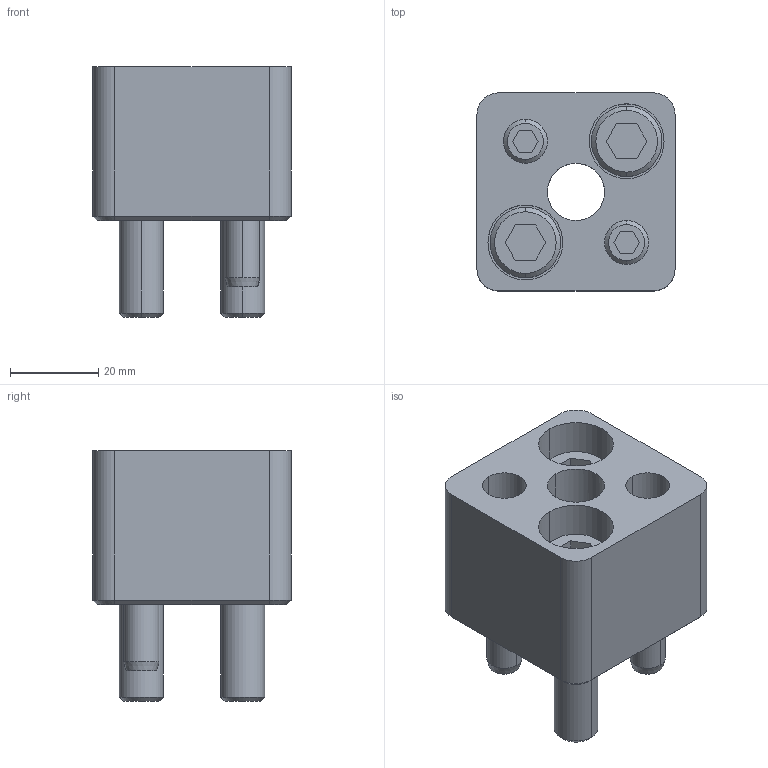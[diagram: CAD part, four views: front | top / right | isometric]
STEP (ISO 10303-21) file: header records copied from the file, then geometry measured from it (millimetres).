
FILE_DESCRIPTION(/* description */ (''),/* implementation_level */ '2;1');
FILE_NAME(/* name */ '3d_hasfr13_04023_r00.stp',/* time_stamp */ '2011-01-10T14:14:55+09:00',/* author */ ('MISUMI'),/* organization */ (''),/* preprocessor_version */ 'ST-DEVELOPER v11',/* originating_system */ 'UGS - NX 5.0',/* authorisation */ '');
FILE_SCHEMA (('CONFIG_CONTROL_DESIGN'));
Length unit declared in the file: millimetre
Products named in the file (1): 3d_hasfr13_04023_r00
Bounding box: 45 x 45 x 57 mm (x, y, z)
Volume: 62148.2 mm3; surface area: 23180 mm2
Topology: 7 solids, 7 shells, 147 faces, 326 edges, 207 vertices
Faces by surface type: plane 66, cylinder 51, cone 30
Entity records: 4196 total; most frequent: DIRECTION 744, CARTESIAN_POINT 740, ORIENTED_EDGE 652, EDGE_CURVE 326, AXIS2_PLACEMENT_3D 281, VERTEX_POINT 207, LINE 182, VECTOR 182
